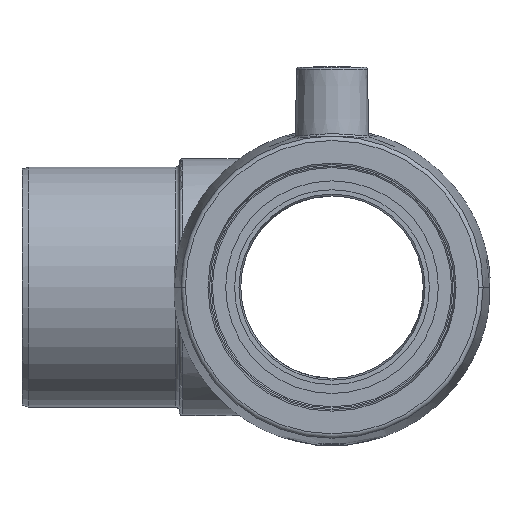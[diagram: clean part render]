
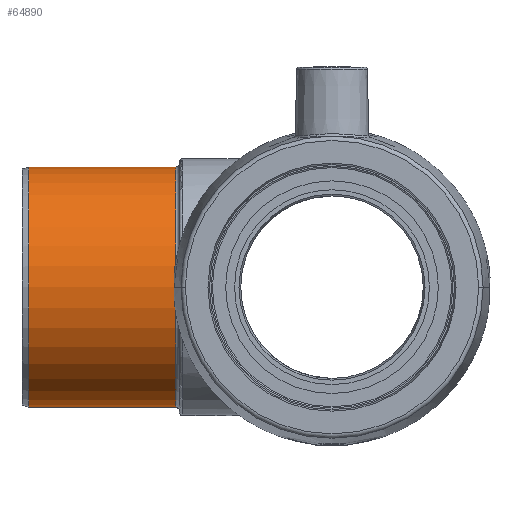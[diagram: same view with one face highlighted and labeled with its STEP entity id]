
A CAD part, left-side view. The second image highlights one B-rep face of the part: STEP entity #64890.
In plain terms, the highlighted cylindrical face has radius 27.1 mm (diameter 54.2 mm), a partial arc.
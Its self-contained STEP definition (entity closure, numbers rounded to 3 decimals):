
#664 = ORIENTED_EDGE ( 'NONE', *, *, #14126, .T. ) ;
#722 = EDGE_CURVE ( 'NONE', #68146, #36943, #29698, .T. ) ;
#3437 = DIRECTION ( 'NONE',  ( 0., -1., 0. ) ) ;
#4536 = CARTESIAN_POINT ( 'NONE',  ( 0., 68.5, 27.1 ) ) ;
#10340 = CARTESIAN_POINT ( 'NONE',  ( 0., 70., -27.1 ) ) ;
#10766 = CIRCLE ( 'NONE', #30655, 27.1 ) ;
#11590 = ORIENTED_EDGE ( 'NONE', *, *, #47961, .T. ) ;
#12932 = DIRECTION ( 'NONE',  ( 0., 1., 0. ) ) ;
#13033 = EDGE_LOOP ( 'NONE', ( #62957, #11590, #664, #44440 ) ) ;
#13057 = DIRECTION ( 'NONE',  ( 0., 0., -1. ) ) ;
#14126 = EDGE_CURVE ( 'NONE', #46629, #68146, #53239, .T. ) ;
#17783 = CARTESIAN_POINT ( 'NONE',  ( 0., 35.3, 0. ) ) ;
#17832 = EDGE_CURVE ( 'NONE', #23242, #36943, #40932, .T. ) ;
#23242 = VERTEX_POINT ( 'NONE', #4536 ) ;
#23639 = DIRECTION ( 'NONE',  ( 0., 0., 1. ) ) ;
#29698 = CIRCLE ( 'NONE', #38558, 27.1 ) ;
#30655 = AXIS2_PLACEMENT_3D ( 'NONE', #66758, #3437, #56384 ) ;
#31556 = VECTOR ( 'NONE', #37661, 1000. ) ;
#32687 = VECTOR ( 'NONE', #62029, 1000. ) ;
#33834 = CARTESIAN_POINT ( 'NONE',  ( 0., 68.5, -27.1 ) ) ;
#35159 = CYLINDRICAL_SURFACE ( 'NONE', #37017, 27.1 ) ;
#36408 = CARTESIAN_POINT ( 'NONE',  ( 0., 70., 27.1 ) ) ;
#36943 = VERTEX_POINT ( 'NONE', #65579 ) ;
#37017 = AXIS2_PLACEMENT_3D ( 'NONE', #49732, #56271, #13057 ) ;
#37661 = DIRECTION ( 'NONE',  ( 0., -1., 0. ) ) ;
#38558 = AXIS2_PLACEMENT_3D ( 'NONE', #17783, #12932, #23639 ) ;
#40932 = LINE ( 'NONE', #36408, #32687 ) ;
#44440 = ORIENTED_EDGE ( 'NONE', *, *, #722, .T. ) ;
#46629 = VERTEX_POINT ( 'NONE', #33834 ) ;
#47961 = EDGE_CURVE ( 'NONE', #23242, #46629, #10766, .T. ) ;
#49158 = CARTESIAN_POINT ( 'NONE',  ( 0., 35.3, -27.1 ) ) ;
#49732 = CARTESIAN_POINT ( 'NONE',  ( 0., 70., 0. ) ) ;
#53239 = LINE ( 'NONE', #10340, #31556 ) ;
#56271 = DIRECTION ( 'NONE',  ( 0., -1., 0. ) ) ;
#56384 = DIRECTION ( 'NONE',  ( 0., 0., 1. ) ) ;
#62029 = DIRECTION ( 'NONE',  ( 0., -1., 0. ) ) ;
#62957 = ORIENTED_EDGE ( 'NONE', *, *, #17832, .F. ) ;
#64890 = ADVANCED_FACE ( 'NONE', ( #66321 ), #35159, .T. ) ;
#65579 = CARTESIAN_POINT ( 'NONE',  ( 0., 35.3, 27.1 ) ) ;
#66321 = FACE_OUTER_BOUND ( 'NONE', #13033, .T. ) ;
#66758 = CARTESIAN_POINT ( 'NONE',  ( 0., 68.5, 0. ) ) ;
#68146 = VERTEX_POINT ( 'NONE', #49158 ) ;
